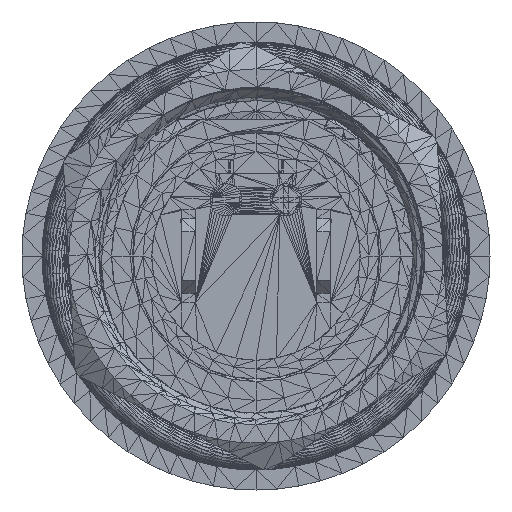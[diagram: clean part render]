
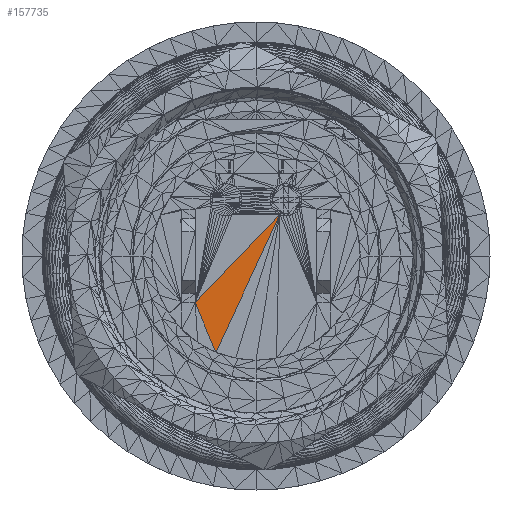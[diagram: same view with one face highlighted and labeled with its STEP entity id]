
A CAD part, front view. The second image highlights one B-rep face of the part: STEP entity #157735.
In plain terms, the highlighted planar face has unit normal (0, -1, 0).
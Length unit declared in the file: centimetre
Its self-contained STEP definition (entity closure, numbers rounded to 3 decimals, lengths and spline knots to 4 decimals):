
#11881=DIRECTION('',(-0.386,0.,0.922));
#12815=DIRECTION('',(-0.421,0.,-0.907));
#12821=DIRECTION('',(-0.693,0.,-0.721));
#24664=VECTOR('',#11881,1.);
#25598=VECTOR('',#12815,1.);
#25604=VECTOR('',#12821,1.);
#26788=CARTESIAN_POINT('',(2.2609,0.508,3.9269));
#30269=CARTESIAN_POINT('',(-3.8111,0.508,-9.1434));
#30441=CARTESIAN_POINT('',(-5.7785,0.508,-4.445));
#31849=VERTEX_POINT('',#26788);
#35330=VERTEX_POINT('',#30269);
#35502=VERTEX_POINT('',#30441);
#50632=LINE('',#30269,#24664);
#50723=LINE('',#26788,#25604);
#50724=LINE('',#26788,#25598);
#65907=EDGE_CURVE('',#35330,#35502,#50632,.T.);
#65998=EDGE_CURVE('',#31849,#35502,#50723,.T.);
#65999=EDGE_CURVE('',#31849,#35330,#50724,.T.);
#81273=ORIENTED_EDGE('',*,*,#65998,.T.);
#96457=ORIENTED_EDGE('',*,*,#65907,.F.);
#96549=ORIENTED_EDGE('',*,*,#65999,.F.);
#106805=EDGE_LOOP('',(#81273,#96457,#96549));
#116991=FACE_OUTER_BOUND('',#106805,.T.);
#137148=DIRECTION('',(0.,-1.,0.));
#137149=AXIS2_PLACEMENT_3D('',#26788,#137148,#12821);
#147549=PLANE('',#137149);
#157735=ADVANCED_FACE('',(#116991),#147549,.T.);
